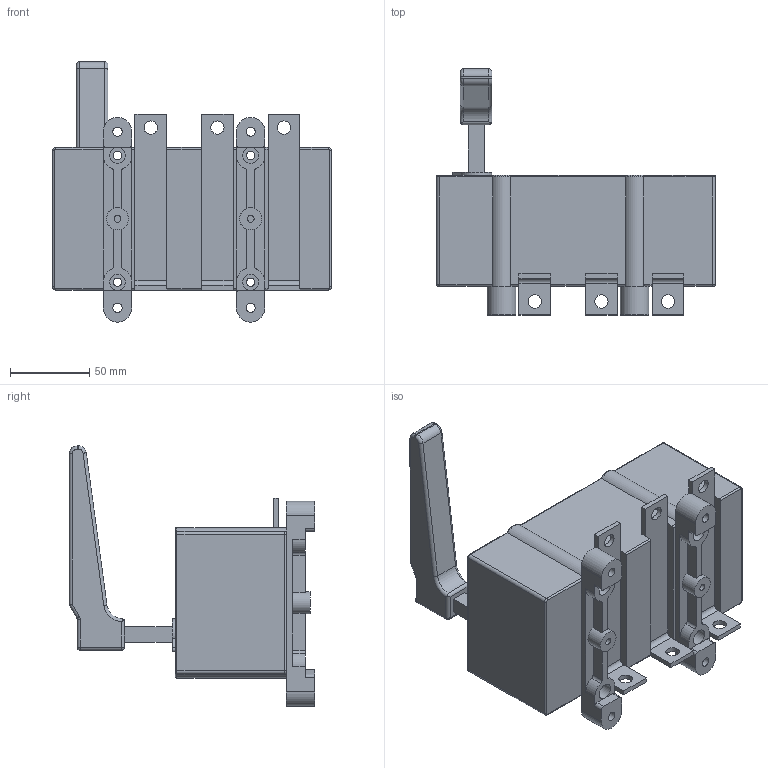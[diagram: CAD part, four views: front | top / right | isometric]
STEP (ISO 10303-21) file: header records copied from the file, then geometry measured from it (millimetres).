
FILE_DESCRIPTION(/* description */ (''),/* implementation_level */ '2;1');
FILE_NAME(/* name */ 'RA160 P3 B-R.stp',/* time_stamp */ '2021-08-17T14:31:44+02:00',/* author */ (''),/* organization */ (''),/* preprocessor_version */ 'ST-DEVELOPER v18.1',/* originating_system */ 'SIEMENS PLM Software NX 1965',/* authorisation */ '');
FILE_SCHEMA (('AUTOMOTIVE_DESIGN { 1 0 10303 214 3 1 1 1 }'));
Length unit declared in the file: millimetre
Products named in the file (1): RA160 P3 B-R_stp
Bounding box: 176 x 155 x 164.18 mm (x, y, z)
Volume: 1182922.8 mm3; surface area: 107407.8 mm2
Topology: 1 solids, 1 shells, 247 faces, 640 edges, 398 vertices
Faces by surface type: cylinder 113, plane 108, torus 15, sphere 6, bspline 5
Full cylindrical faces by diameter (mm): 4.3 x2, 5.3 x4, 5.8 x4, 8.5 x6, 10 x8, 14 x2
Entity records: 7445 total; most frequent: CARTESIAN_POINT 1427, DIRECTION 1294, ORIENTED_EDGE 1192, EDGE_CURVE 596, AXIS2_PLACEMENT_3D 477, VERTEX_POINT 386, LINE 340, VECTOR 340
